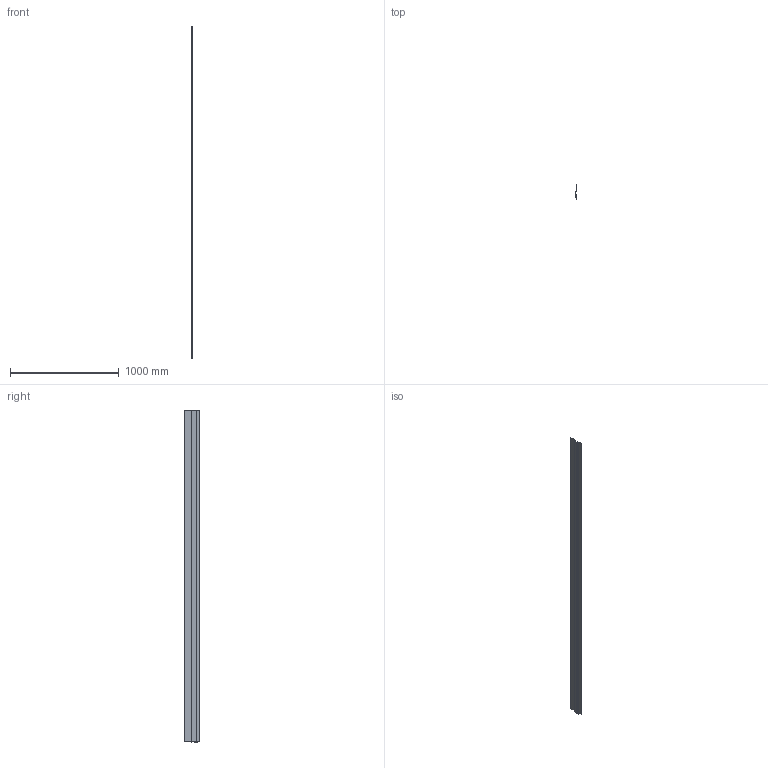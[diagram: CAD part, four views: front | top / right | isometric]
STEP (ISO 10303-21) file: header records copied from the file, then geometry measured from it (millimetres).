
FILE_DESCRIPTION (( 'STEP AP203' ), '1' );
FILE_NAME ('M13D.STEP', '2018-09-19T15:20:56', ( 'Michael Moliner' ), ( '' ), 'SwSTEP 2.0', 'SolidWorks 2018', '' );
FILE_SCHEMA (( 'CONFIG_CONTROL_DESIGN' ));
Length unit declared in the file: millimetre
Products named in the file (5): M13D; M13D.1; M13D.2
Assembly tree (2 placements, depth 2):
  M13D
    M13D.1
    M13D.2
  M13D.1
  M13D.2
Bounding box: 15.2 x 140.11 x 3048 mm (x, y, z)
Volume: 352623.2 mm3; surface area: 1394705.3 mm2
Topology: 2 solids, 2 shells, 33 faces, 87 edges, 58 vertices
Faces by surface type: plane 24, cylinder 9
Entity records: 1476 total; most frequent: CARTESIAN_POINT 184, DIRECTION 183, ORIENTED_EDGE 174, EDGE_CURVE 87, VECTOR 69, LINE 69, VERTEX_POINT 58, AXIS2_PLACEMENT_3D 57
